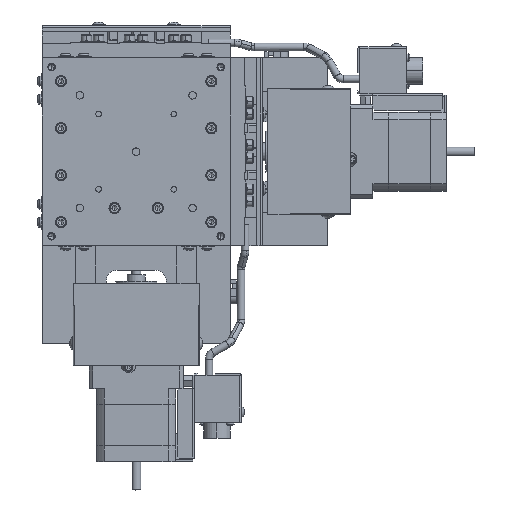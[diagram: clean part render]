
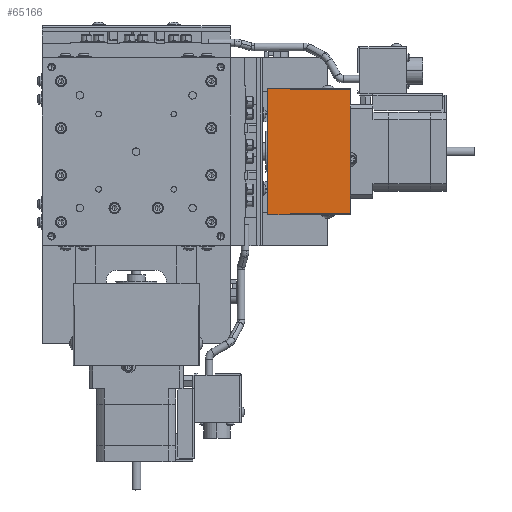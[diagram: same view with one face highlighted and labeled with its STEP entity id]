
A CAD part, top view. The second image highlights one B-rep face of the part: STEP entity #65166.
In plain terms, the highlighted planar face has unit normal (0, 0, 1).
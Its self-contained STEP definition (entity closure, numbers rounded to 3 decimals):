
#2436 = ORIENTED_EDGE ( 'NONE', *, *, #102464, .F. ) ;
#6278 = LINE ( 'NONE', #89119, #73614 ) ;
#8976 = ORIENTED_EDGE ( 'NONE', *, *, #81091, .F. ) ;
#9357 = DIRECTION ( 'NONE',  ( 0., 1., 0. ) ) ;
#9419 = LINE ( 'NONE', #76209, #57382 ) ;
#11938 = EDGE_CURVE ( 'NONE', #51993, #77520, #116467, .T. ) ;
#12659 = CARTESIAN_POINT ( 'NONE',  ( -70., -33.5, 29.5 ) ) ;
#13086 = DIRECTION ( 'NONE',  ( -1., 0., 0. ) ) ;
#13366 = DIRECTION ( 'NONE',  ( 0., 1., 0. ) ) ;
#17746 = LINE ( 'NONE', #101834, #116439 ) ;
#20992 = CARTESIAN_POINT ( 'NONE',  ( -82., 33.5, 29.5 ) ) ;
#26808 = VECTOR ( 'NONE', #113085, 1000. ) ;
#27426 = CARTESIAN_POINT ( 'NONE',  ( -82., -33.5, 29.5 ) ) ;
#28773 = EDGE_CURVE ( 'NONE', #82934, #86090, #73763, .T. ) ;
#29603 = CARTESIAN_POINT ( 'NONE',  ( -114., 33., 29.5 ) ) ;
#29611 = ORIENTED_EDGE ( 'NONE', *, *, #11938, .F. ) ;
#30368 = VERTEX_POINT ( 'NONE', #115544 ) ;
#31659 = LINE ( 'NONE', #12659, #118370 ) ;
#32542 = DIRECTION ( 'NONE',  ( -1., 0., 0. ) ) ;
#32789 = EDGE_CURVE ( 'NONE', #51993, #82934, #31659, .T. ) ;
#34078 = ORIENTED_EDGE ( 'NONE', *, *, #28773, .T. ) ;
#36458 = ORIENTED_EDGE ( 'NONE', *, *, #67080, .T. ) ;
#36760 = CARTESIAN_POINT ( 'NONE',  ( -70., 33.5, 29.5 ) ) ;
#37921 = LINE ( 'NONE', #43545, #91793 ) ;
#38207 = VERTEX_POINT ( 'NONE', #49329 ) ;
#38630 = ORIENTED_EDGE ( 'NONE', *, *, #95234, .T. ) ;
#39186 = LINE ( 'NONE', #47812, #118455 ) ;
#43545 = CARTESIAN_POINT ( 'NONE',  ( -82., -33.5, 29.5 ) ) ;
#44128 = LINE ( 'NONE', #105924, #91978 ) ;
#47812 = CARTESIAN_POINT ( 'NONE',  ( -114., 0., 29.5 ) ) ;
#49329 = CARTESIAN_POINT ( 'NONE',  ( -114., -25., 29.5 ) ) ;
#49435 = VECTOR ( 'NONE', #54306, 1000. ) ;
#50944 = EDGE_LOOP ( 'NONE', ( #86209, #29611, #105095, #34078, #100738, #36458, #102710, #104720, #8976, #2436, #119723, #38630 ) ) ;
#51993 = VERTEX_POINT ( 'NONE', #96631 ) ;
#54306 = DIRECTION ( 'NONE',  ( 1., 0., 0. ) ) ;
#56238 = CARTESIAN_POINT ( 'NONE',  ( -70., -33.5, 29.5 ) ) ;
#57382 = VECTOR ( 'NONE', #122562, 1000. ) ;
#57885 = VERTEX_POINT ( 'NONE', #114987 ) ;
#58312 = LINE ( 'NONE', #65539, #26808 ) ;
#58415 = VECTOR ( 'NONE', #65912, 1000. ) ;
#60830 = DIRECTION ( 'NONE',  ( 0., 1., 0. ) ) ;
#61776 = VECTOR ( 'NONE', #13086, 1000. ) ;
#63234 = DIRECTION ( 'NONE',  ( 0., 1., 0. ) ) ;
#63343 = EDGE_CURVE ( 'NONE', #79274, #86090, #44128, .T. ) ;
#65166 = ADVANCED_FACE ( 'NONE', ( #121525 ), #89879, .T. ) ;
#65539 = CARTESIAN_POINT ( 'NONE',  ( -98., 33., 29.5 ) ) ;
#65852 = VECTOR ( 'NONE', #77896, 1000. ) ;
#65912 = DIRECTION ( 'NONE',  ( 0., 1., 0. ) ) ;
#66250 = DIRECTION ( 'NONE',  ( 0., 1., 0. ) ) ;
#67080 = EDGE_CURVE ( 'NONE', #79274, #107072, #58312, .T. ) ;
#71293 = CARTESIAN_POINT ( 'NONE',  ( -114., 0.031, 29.5 ) ) ;
#72433 = AXIS2_PLACEMENT_3D ( 'NONE', #98995, #81117, #32542 ) ;
#72479 = EDGE_CURVE ( 'NONE', #77520, #30368, #37921, .T. ) ;
#73136 = VERTEX_POINT ( 'NONE', #93513 ) ;
#73203 = CARTESIAN_POINT ( 'NONE',  ( -114., 25., 29.5 ) ) ;
#73614 = VECTOR ( 'NONE', #13366, 1000. ) ;
#73763 = LINE ( 'NONE', #99157, #61776 ) ;
#74834 = LINE ( 'NONE', #83934, #49435 ) ;
#75727 = EDGE_CURVE ( 'NONE', #73136, #81505, #80821, .T. ) ;
#76209 = CARTESIAN_POINT ( 'NONE',  ( -114., 0., 29.5 ) ) ;
#77520 = VERTEX_POINT ( 'NONE', #27426 ) ;
#77896 = DIRECTION ( 'NONE',  ( -1., 0., 0. ) ) ;
#79274 = VERTEX_POINT ( 'NONE', #87849 ) ;
#80821 = LINE ( 'NONE', #85519, #58415 ) ;
#81091 = EDGE_CURVE ( 'NONE', #119571, #73136, #39186, .T. ) ;
#81117 = DIRECTION ( 'NONE',  ( 0., 0., 1. ) ) ;
#81505 = VERTEX_POINT ( 'NONE', #73203 ) ;
#82934 = VERTEX_POINT ( 'NONE', #36760 ) ;
#83934 = CARTESIAN_POINT ( 'NONE',  ( -98., -33., 29.5 ) ) ;
#85519 = CARTESIAN_POINT ( 'NONE',  ( -114., 0., 29.5 ) ) ;
#86090 = VERTEX_POINT ( 'NONE', #20992 ) ;
#86209 = ORIENTED_EDGE ( 'NONE', *, *, #72479, .F. ) ;
#87849 = CARTESIAN_POINT ( 'NONE',  ( -82., 33., 29.5 ) ) ;
#89119 = CARTESIAN_POINT ( 'NONE',  ( -114., 0., 29.5 ) ) ;
#89879 = PLANE ( 'NONE',  #72433 ) ;
#91793 = VECTOR ( 'NONE', #63234, 1000. ) ;
#91978 = VECTOR ( 'NONE', #9357, 1000. ) ;
#93513 = CARTESIAN_POINT ( 'NONE',  ( -114., 7.969, 29.5 ) ) ;
#95234 = EDGE_CURVE ( 'NONE', #57885, #30368, #74834, .T. ) ;
#96631 = CARTESIAN_POINT ( 'NONE',  ( -70., -33.5, 29.5 ) ) ;
#96758 = EDGE_CURVE ( 'NONE', #81505, #107072, #6278, .T. ) ;
#98995 = CARTESIAN_POINT ( 'NONE',  ( -70., -33.5, 29.5 ) ) ;
#99157 = CARTESIAN_POINT ( 'NONE',  ( -70., 33.5, 29.5 ) ) ;
#100738 = ORIENTED_EDGE ( 'NONE', *, *, #63343, .F. ) ;
#101834 = CARTESIAN_POINT ( 'NONE',  ( -114., 0., 29.5 ) ) ;
#102464 = EDGE_CURVE ( 'NONE', #38207, #119571, #9419, .T. ) ;
#102710 = ORIENTED_EDGE ( 'NONE', *, *, #96758, .F. ) ;
#104720 = ORIENTED_EDGE ( 'NONE', *, *, #75727, .F. ) ;
#105095 = ORIENTED_EDGE ( 'NONE', *, *, #32789, .T. ) ;
#105924 = CARTESIAN_POINT ( 'NONE',  ( -82., -33.5, 29.5 ) ) ;
#107072 = VERTEX_POINT ( 'NONE', #29603 ) ;
#109793 = DIRECTION ( 'NONE',  ( 0., 1., 0. ) ) ;
#113085 = DIRECTION ( 'NONE',  ( -1., 0., 0. ) ) ;
#114987 = CARTESIAN_POINT ( 'NONE',  ( -114., -33., 29.5 ) ) ;
#115544 = CARTESIAN_POINT ( 'NONE',  ( -82., -33., 29.5 ) ) ;
#116439 = VECTOR ( 'NONE', #109793, 1000. ) ;
#116467 = LINE ( 'NONE', #56238, #65852 ) ;
#118370 = VECTOR ( 'NONE', #60830, 1000. ) ;
#118455 = VECTOR ( 'NONE', #66250, 1000. ) ;
#119571 = VERTEX_POINT ( 'NONE', #71293 ) ;
#119723 = ORIENTED_EDGE ( 'NONE', *, *, #120327, .F. ) ;
#120327 = EDGE_CURVE ( 'NONE', #57885, #38207, #17746, .T. ) ;
#121525 = FACE_OUTER_BOUND ( 'NONE', #50944, .T. ) ;
#122562 = DIRECTION ( 'NONE',  ( 0., 1., 0. ) ) ;
